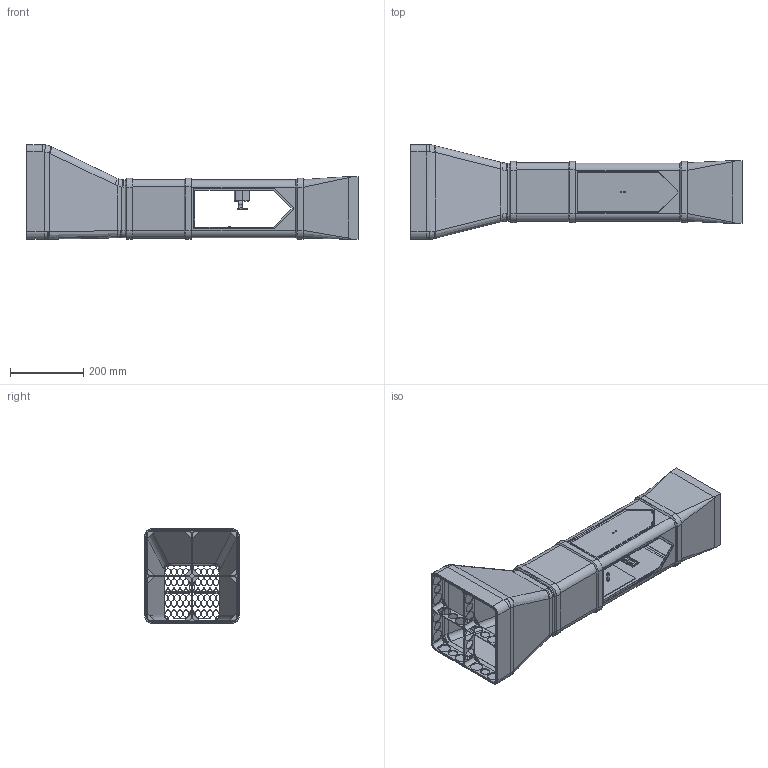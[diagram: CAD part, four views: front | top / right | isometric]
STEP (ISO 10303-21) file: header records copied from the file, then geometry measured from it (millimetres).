
FILE_DESCRIPTION(/* description */ ('Alibre Inc.'),/* implementation_level */ '2;1');
FILE_NAME(/* name */ 'export-AA432A0E-4158-400C-9DEE-0B5E26A26A03',/* time_stamp */ '2021-09-02T12:19:50-05:00',/* author */ (''),/* organization */ (''),/* preprocessor_version */ 'ST-DEVELOPER v17',/* originating_system */ 'Alibre',/* authorisation */ '');
FILE_SCHEMA (('AUTOMOTIVE_DESIGN'));
Products named in the file (11): honey-comb; mesh; test section; handle; diffuser + fan part
Bounding box: 905.5 x 258 x 258.3 mm (x, y, z)
Volume: 2942175.5 mm3; surface area: 2051275 mm2
Topology: 9 solids, 9 shells, 1249 faces, 3516 edges, 2278 vertices
Faces by surface type: plane 895, cylinder 210, bspline 94, cone 37, extrusion 8, torus 5
Full cylindrical faces by diameter (mm): 3.3 x1, 3.35 x1, 3.5 x3, 6 x1, 24.864 x12, 33.365 x24
Entity records: 50531 total; most frequent: CARTESIAN_POINT 19381, ORIENTED_EDGE 6910, DIRECTION 5011, EDGE_CURVE 3455, VECTOR 2685, LINE 2677, VERTEX_POINT 2270, AXIS2_PLACEMENT_3D 1610
